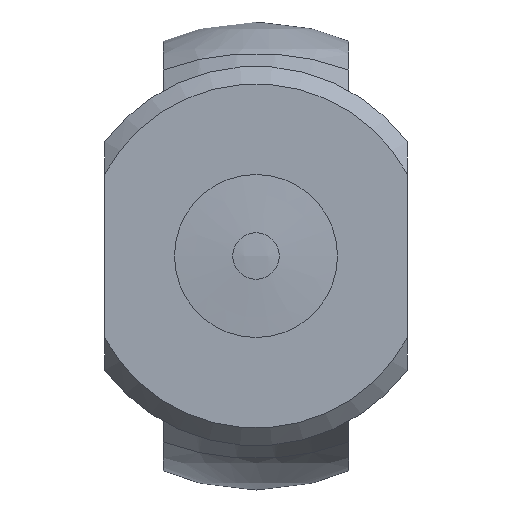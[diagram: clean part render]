
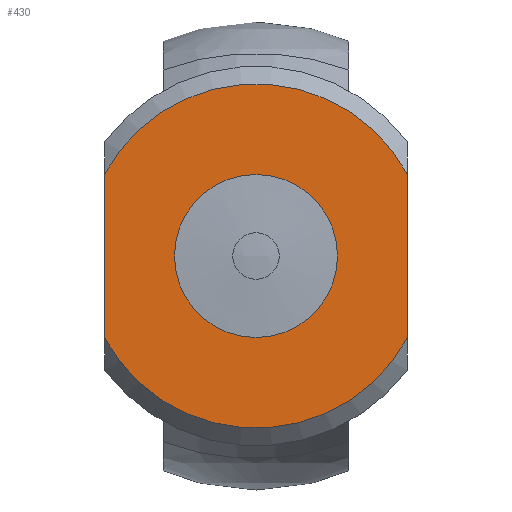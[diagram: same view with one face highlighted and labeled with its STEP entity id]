
A CAD part, front view. The second image highlights one B-rep face of the part: STEP entity #430.
In plain terms, the highlighted planar face has unit normal (0, -1, 0).
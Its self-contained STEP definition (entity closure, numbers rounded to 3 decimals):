
#60=CIRCLE('',#474,12.5);
#65=CIRCLE('',#488,12.5);
#66=CIRCLE('',#490,5.918);
#139=ORIENTED_EDGE('',*,*,#230,.T.);
#140=ORIENTED_EDGE('',*,*,#229,.F.);
#141=ORIENTED_EDGE('',*,*,#220,.T.);
#142=ORIENTED_EDGE('',*,*,#212,.F.);
#143=ORIENTED_EDGE('',*,*,#231,.T.);
#212=EDGE_CURVE('',#261,#262,#60,.T.);
#220=EDGE_CURVE('',#266,#262,#296,.T.);
#229=EDGE_CURVE('',#266,#271,#65,.T.);
#230=EDGE_CURVE('',#261,#271,#299,.T.);
#231=EDGE_CURVE('',#272,#272,#66,.T.);
#261=VERTEX_POINT('',#718);
#262=VERTEX_POINT('',#720);
#266=VERTEX_POINT('',#738);
#271=VERTEX_POINT('',#762);
#272=VERTEX_POINT('',#767);
#296=LINE('',#737,#314);
#299=LINE('',#765,#317);
#314=VECTOR('',#580,1000.);
#317=VECTOR('',#597,1000.);
#335=EDGE_LOOP('',(#139,#140,#141,#142));
#336=EDGE_LOOP('',(#143));
#379=FACE_BOUND('',#335,.T.);
#380=FACE_BOUND('',#336,.T.);
#412=PLANE('',#489);
#430=ADVANCED_FACE('',(#379,#380),#412,.T.);
#474=AXIS2_PLACEMENT_3D('',#719,#560,#561);
#488=AXIS2_PLACEMENT_3D('',#763,#593,#594);
#489=AXIS2_PLACEMENT_3D('',#764,#595,#596);
#490=AXIS2_PLACEMENT_3D('',#766,#598,#599);
#560=DIRECTION('',(0.,1.,0.));
#561=DIRECTION('',(1.,0.,0.));
#580=DIRECTION('',(0.,0.,1.));
#593=DIRECTION('',(0.,1.,0.));
#594=DIRECTION('',(1.,0.,0.));
#595=DIRECTION('',(0.,-1.,0.));
#596=DIRECTION('',(-1.,0.,0.));
#597=DIRECTION('',(0.,0.,-1.));
#598=DIRECTION('',(0.,1.,0.));
#599=DIRECTION('',(1.,0.,0.));
#718=CARTESIAN_POINT('',(-11.,-57.,5.937));
#719=CARTESIAN_POINT('',(0.,-57.,0.));
#720=CARTESIAN_POINT('',(11.,-57.,5.937));
#737=CARTESIAN_POINT('',(11.,-57.,0.));
#738=CARTESIAN_POINT('',(11.,-57.,-5.937));
#762=CARTESIAN_POINT('',(-11.,-57.,-5.937));
#763=CARTESIAN_POINT('',(0.,-57.,0.));
#764=CARTESIAN_POINT('',(6.25,-57.,0.));
#765=CARTESIAN_POINT('',(-11.,-57.,0.));
#766=CARTESIAN_POINT('',(0.,-57.,0.));
#767=CARTESIAN_POINT('',(5.918,-57.,0.));
